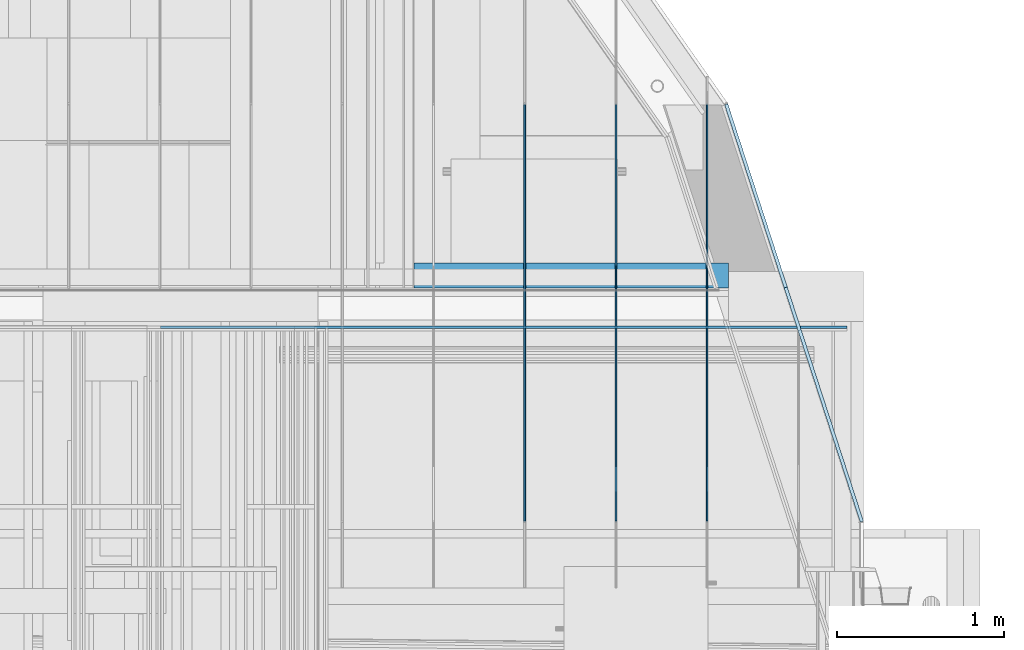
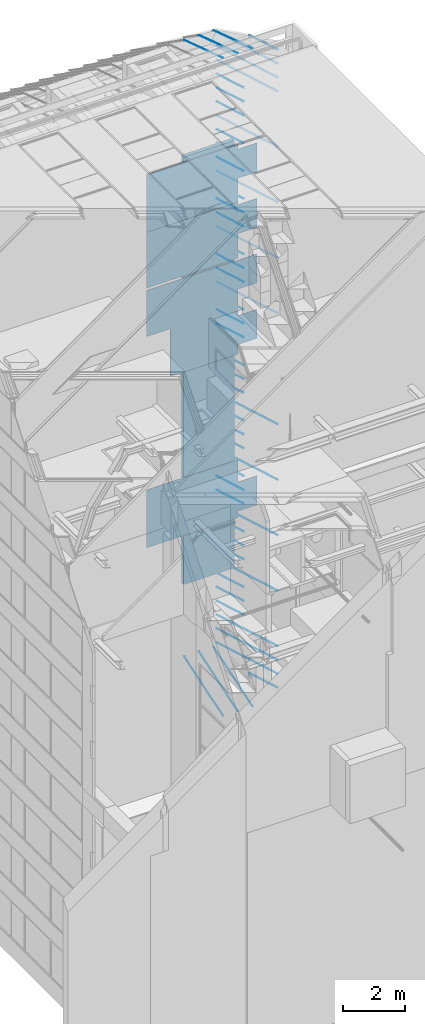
# One storey, part 286 of 583: 57 slabs.
"""IFC2X3 building model written with IfcOpenShell, lengths in metres."""

from ifc_helpers import new_model, entity, si_unit, converted_unit, derived_unit, money_unit, direction, frame, origin_with_axes, place, context, subcontext, project, spatial, faceted_brep, material, type_object, element, save


model = new_model("IFC2X3")

# Units and contexts
model_context = context("Model", 3, precision=1e-05, world=origin_with_axes(), true_north=direction((0.0, 1.0)))
body_context = subcontext(model_context, "Body", "Model", "MODEL_VIEW", scale=1.0)
ifc_project = project(units=[si_unit("LENGTHUNIT", "METRE"), si_unit("AREAUNIT", "SQUARE_METRE"), si_unit("VOLUMEUNIT", "CUBIC_METRE"), si_unit("ABSORBEDDOSEUNIT", "GRAY"), si_unit("AMOUNTOFSUBSTANCEUNIT", "MOLE"), si_unit("DOSEEQUIVALENTUNIT", "SIEVERT"), si_unit("ELECTRICCAPACITANCEUNIT", "FARAD"), si_unit("ELECTRICCHARGEUNIT", "COULOMB"), si_unit("ELECTRICCONDUCTANCEUNIT", "SIEMENS"), si_unit("ELECTRICCURRENTUNIT", "AMPERE"), si_unit("ELECTRICRESISTANCEUNIT", "OHM"), si_unit("ELECTRICVOLTAGEUNIT", "VOLT"), si_unit("ENERGYUNIT", "JOULE"), si_unit("FORCEUNIT", "NEWTON"), si_unit("FREQUENCYUNIT", "HERTZ"), si_unit("ILLUMINANCEUNIT", "LUX"), si_unit("INDUCTANCEUNIT", "HENRY"), si_unit("LUMINOUSFLUXUNIT", "LUMEN"), si_unit("LUMINOUSINTENSITYUNIT", "CANDELA"), si_unit("MAGNETICFLUXDENSITYUNIT", "TESLA"), si_unit("MAGNETICFLUXUNIT", "WEBER"), si_unit("MASSUNIT", "GRAM"), converted_unit("PLANEANGLEUNIT", "degree", entity("IfcReal", 0.0174532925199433), si_unit("PLANEANGLEUNIT", "RADIAN"), dimensions=[0, 0, 0, 0, 0, 0, 0]), si_unit("POWERUNIT", "WATT"), si_unit("PRESSUREUNIT", "PASCAL"), si_unit("RADIOACTIVITYUNIT", "BECQUEREL"), si_unit("SOLIDANGLEUNIT", "STERADIAN"), si_unit("THERMODYNAMICTEMPERATUREUNIT", "KELVIN"), si_unit("TIMEUNIT", "SECOND"), derived_unit("ACCELERATIONUNIT", [(si_unit("LENGTHUNIT", "METRE"), 1), (si_unit("TIMEUNIT", "SECOND"), -2)]), derived_unit("ANGULARVELOCITYUNIT", [(converted_unit("PLANEANGLEUNIT", "degree", entity("IfcReal", 0.0174532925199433), si_unit("PLANEANGLEUNIT", "RADIAN"), dimensions=[0, 0, 0, 0, 0, 0, 0]), 1), (si_unit("TIMEUNIT", "SECOND"), -1)]), derived_unit("CURVATUREUNIT", [(converted_unit("PLANEANGLEUNIT", "degree", entity("IfcReal", 0.0174532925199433), si_unit("PLANEANGLEUNIT", "RADIAN"), dimensions=[0, 0, 0, 0, 0, 0, 0]), 1), (si_unit("LENGTHUNIT", "METRE"), -1)]), derived_unit("DYNAMICVISCOSITYUNIT", [(si_unit("PRESSUREUNIT", "PASCAL"), 1), (si_unit("TIMEUNIT", "SECOND"), 1)]), derived_unit("HEATFLUXDENSITYUNIT", [(si_unit("POWERUNIT", "WATT"), 1), (si_unit("LENGTHUNIT", "METRE"), -2)]), derived_unit("HEATINGVALUEUNIT", [(si_unit("ENERGYUNIT", "JOULE"), 1), (si_unit("MASSUNIT", "GRAM"), -1)]), derived_unit("INTEGERCOUNTRATEUNIT", [(si_unit("TIMEUNIT", "SECOND"), -1)]), derived_unit("IONCONCENTRATIONUNIT", [(si_unit("MASSUNIT", "GRAM"), 1), (si_unit("VOLUMEUNIT", "CUBIC_METRE"), -1)]), derived_unit("ISOTHERMALMOISTURECAPACITYUNIT", [(si_unit("VOLUMEUNIT", "CUBIC_METRE"), 1), (si_unit("MASSUNIT", "GRAM"), -1)]), derived_unit("KINEMATICVISCOSITYUNIT", [(si_unit("AREAUNIT", "SQUARE_METRE"), 1), (si_unit("TIMEUNIT", "SECOND"), -1)]), derived_unit("LINEARFORCEUNIT", [(si_unit("FORCEUNIT", "NEWTON"), 1), (si_unit("LENGTHUNIT", "METRE"), -1)]), derived_unit("LINEARMOMENTUNIT", [(si_unit("FORCEUNIT", "NEWTON"), 1), (si_unit("LENGTHUNIT", "METRE"), -1)]), derived_unit("LINEARSTIFFNESSUNIT", [(si_unit("FORCEUNIT", "NEWTON"), 1), (si_unit("LENGTHUNIT", "METRE"), -1)]), derived_unit("LINEARVELOCITYUNIT", [(si_unit("LENGTHUNIT", "METRE"), 1), (si_unit("TIMEUNIT", "SECOND"), -1)]), derived_unit("LUMINOUSINTENSITYDISTRIBUTIONUNIT", [(si_unit("LUMINOUSINTENSITYUNIT", "CANDELA"), 1), (si_unit("LUMINOUSFLUXUNIT", "LUMEN"), -1)]), derived_unit("MASSDENSITYUNIT", [(si_unit("MASSUNIT", "GRAM"), 1), (si_unit("VOLUMEUNIT", "CUBIC_METRE"), -1)]), derived_unit("MASSFLOWRATEUNIT", [(si_unit("MASSUNIT", "GRAM"), 1), (si_unit("TIMEUNIT", "SECOND"), -1)]), derived_unit("MASSPERLENGTHUNIT", [(si_unit("MASSUNIT", "GRAM"), 1), (si_unit("LENGTHUNIT", "METRE"), -1)]), derived_unit("MODULUSOFELASTICITYUNIT", [(si_unit("FORCEUNIT", "NEWTON"), 1), (si_unit("AREAUNIT", "SQUARE_METRE"), -1)]), derived_unit("MODULUSOFLINEARSUBGRADEREACTIONUNIT", [(si_unit("FORCEUNIT", "NEWTON"), 1), (si_unit("LENGTHUNIT", "METRE"), -2)]), derived_unit("MODULUSOFROTATIONALSUBGRADEREACTIONUNIT", [(si_unit("FORCEUNIT", "NEWTON"), 1), (si_unit("LENGTHUNIT", "METRE"), 1)]), derived_unit("MODULUSOFSUBGRADEREACTIONUNIT", [(si_unit("FORCEUNIT", "NEWTON"), 1), (si_unit("VOLUMEUNIT", "CUBIC_METRE"), -1)]), derived_unit("MOISTUREDIFFUSIVITYUNIT", [(si_unit("VOLUMEUNIT", "CUBIC_METRE"), 1), (si_unit("TIMEUNIT", "SECOND"), -1)]), derived_unit("MOLECULARWEIGHTUNIT", [(si_unit("MASSUNIT", "GRAM"), 1), (si_unit("AMOUNTOFSUBSTANCEUNIT", "MOLE"), -1)]), derived_unit("PLANARFORCEUNIT", [(si_unit("FORCEUNIT", "NEWTON"), 1), (si_unit("LENGTHUNIT", "METRE"), -2)]), derived_unit("ROTATIONALFREQUENCYUNIT", [(si_unit("TIMEUNIT", "SECOND"), -1)]), derived_unit("ROTATIONALMASSUNIT", [(si_unit("MASSUNIT", "GRAM"), 1), (si_unit("LENGTHUNIT", "METRE"), 2)]), derived_unit("ROTATIONALSTIFFNESSUNIT", [(si_unit("FORCEUNIT", "NEWTON"), 1), (si_unit("LENGTHUNIT", "METRE"), 1), (converted_unit("PLANEANGLEUNIT", "degree", entity("IfcReal", 0.0174532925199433), si_unit("PLANEANGLEUNIT", "RADIAN"), dimensions=[0, 0, 0, 0, 0, 0, 0]), -1)]), derived_unit("SECTIONAREAINTEGRALUNIT", [(si_unit("LENGTHUNIT", "METRE"), 5)]), derived_unit("SECTIONMODULUSUNIT", [(si_unit("LENGTHUNIT", "METRE"), 3)]), derived_unit("SHEARMODULUSUNIT", [(si_unit("FORCEUNIT", "NEWTON"), 1), (si_unit("AREAUNIT", "SQUARE_METRE"), -1)]), derived_unit("SOUNDPOWERUNIT", [(si_unit("ENERGYUNIT", "JOULE"), 1), (si_unit("TIMEUNIT", "SECOND"), -1)]), derived_unit("SPECIFICHEATCAPACITYUNIT", [(si_unit("FORCEUNIT", "NEWTON"), 1), (si_unit("MASSUNIT", "GRAM"), -1), (si_unit("THERMODYNAMICTEMPERATUREUNIT", "KELVIN"), -1)]), derived_unit("TEMPERATUREGRADIENTUNIT", [(si_unit("THERMODYNAMICTEMPERATUREUNIT", "KELVIN"), 1), (si_unit("LENGTHUNIT", "METRE"), -1)]), derived_unit("THERMALADMITTANCEUNIT", [(si_unit("POWERUNIT", "WATT"), 1), (si_unit("AREAUNIT", "SQUARE_METRE"), -1), (si_unit("THERMODYNAMICTEMPERATUREUNIT", "KELVIN"), -1)]), derived_unit("THERMALCONDUCTANCEUNIT", [(si_unit("POWERUNIT", "WATT"), 1), (si_unit("LENGTHUNIT", "METRE"), -1), (si_unit("THERMODYNAMICTEMPERATUREUNIT", "KELVIN"), -1)]), derived_unit("THERMALEXPANSIONCOEFFICIENTUNIT", [(si_unit("THERMODYNAMICTEMPERATUREUNIT", "KELVIN"), -1)]), derived_unit("THERMALRESISTANCEUNIT", [(si_unit("AREAUNIT", "SQUARE_METRE"), 1), (si_unit("POWERUNIT", "WATT"), -1)]), derived_unit("THERMALTRANSMITTANCEUNIT", [(si_unit("POWERUNIT", "WATT"), 1), (si_unit("AREAUNIT", "SQUARE_METRE"), -1), (si_unit("THERMODYNAMICTEMPERATUREUNIT", "KELVIN"), -1)]), derived_unit("TORQUEUNIT", [(si_unit("FORCEUNIT", "NEWTON"), 1), (si_unit("LENGTHUNIT", "METRE"), 1)]), derived_unit("VAPORPERMEABILITYUNIT", [(si_unit("MASSUNIT", "GRAM"), 1), (si_unit("TIMEUNIT", "SECOND"), -1)]), derived_unit("VOLUMETRICFLOWRATEUNIT", [(si_unit("VOLUMEUNIT", "CUBIC_METRE"), 1), (si_unit("TIMEUNIT", "SECOND"), -1)]), derived_unit("WARPINGCONSTANTUNIT", [(si_unit("LENGTHUNIT", "METRE"), 6)]), derived_unit("WARPINGMOMENTUNIT", [(si_unit("FORCEUNIT", "NEWTON"), 1), (si_unit("LENGTHUNIT", "METRE"), 2)]), money_unit("GBP")], contexts=[model_context])

# Site, building, storey
site_placement = place(None, origin_with_axes())
site = spatial("IfcSite", under=ifc_project, at=site_placement, Name="Site", CompositionType="ELEMENT")
building_placement = place(site_placement, origin_with_axes())
building = spatial("IfcBuilding", under=site, at=building_placement, Name="Building01", CompositionType="ELEMENT")
storey_placement = place(building_placement, frame((0.0, 0.0, 20.78), z_axis=(0.0, 0.0, 1.0), x_axis=(1.0, 0.0, 0.0)))
storey = spatial("IfcBuildingStorey", under=building, at=storey_placement, Name="RL", CompositionType="ELEMENT", Elevation=20.78)

# Slabs
ifc_material_1 = material(Name="A_BSUK_CeilingSoffitFinishes_Suspended")
slab_type = type_object("IfcSlabType", Name="A-FloorsSlabs A_BSUK_Slabs", PredefinedType="FLOOR")
placement = place(storey_placement, frame((0.0, 0.0, -20.78), z_axis=(0.0, 0.0, 1.0), x_axis=(1.0, 0.0, 0.0)))
element("IfcSlab", 1, at=placement, inside=storey, type_object=slab_type, material=ifc_material_1, Name="A-FloorsSlabs A_BSUK_Slabs", ObjectType="CompoundSlabLeaf", context=body_context, shape_type="Brep", body=[
    faceted_brep([(10.179939, 17.438, 9.480024), (10.179939, 17.453, 9.480024), (10.179939, 17.453, 7.190024), (10.179939, 17.438, 7.190024), (13.587598, 17.438, 9.480024), (13.587598, 17.453, 9.480024), (13.587598, 17.438, 8.600024), (13.587598, 17.453, 8.600024), (14.300061, 17.438, 8.600024), (14.300061, 17.453, 8.600024), (14.300061, 17.438, 7.450024), (14.300061, 17.453, 7.450024), (13.587598, 17.438, 7.450024), (13.587598, 17.453, 7.450024), (13.587598, 17.438, 7.190024), (13.587598, 17.453, 7.190024)], [[[0, 1, 2, 3]], [[4, 5, 1, 0]], [[6, 7, 5, 4]], [[8, 9, 7, 6]], [[10, 11, 9, 8]], [[12, 13, 11, 10]], [[14, 15, 13, 12]], [[3, 2, 15, 14]], [[1, 5, 7, 9, 11, 13, 15, 2]], [[3, 14, 12, 10, 8, 6, 4, 0]]]),
])
element("IfcSlab", 2, at=placement, inside=storey, type_object=slab_type, material=ifc_material_1, Name="A-FloorsSlabs A_BSUK_Slabs", ObjectType="CompoundSlabLeaf", context=body_context, shape_type="Brep", body=[
    faceted_brep([(11.063789, 17.438, 13.65), (11.063789, 17.453, 13.65), (13.587598, 17.453, 13.65), (13.587598, 17.438, 13.65), (11.063789, 17.438, 15.529998), (11.063789, 17.453, 15.529998), (10.179939, 17.438, 15.529998), (10.179939, 17.453, 15.529998), (10.179939, 17.438, 17.360024), (10.179939, 17.453, 17.360024), (14.300061, 17.438, 17.360024), (14.300061, 17.453, 17.360024), (14.300061, 17.438, 16.210024), (14.300061, 17.453, 16.210024), (13.587598, 17.438, 16.210024), (13.587598, 17.453, 16.210024), (13.587598, 17.438, 15.169976), (13.587598, 17.453, 15.169976), (14.300061, 17.438, 15.169976), (14.300061, 17.453, 15.169976), (14.300061, 17.438, 14.020024), (14.300061, 17.453, 14.020024), (13.587598, 17.438, 14.020024), (13.587598, 17.453, 14.020024)], [[[0, 1, 2, 3]], [[4, 5, 1, 0]], [[6, 7, 5, 4]], [[8, 9, 7, 6]], [[10, 11, 9, 8]], [[12, 13, 11, 10]], [[14, 15, 13, 12]], [[16, 17, 15, 14]], [[18, 19, 17, 16]], [[20, 21, 19, 18]], [[22, 23, 21, 20]], [[3, 2, 23, 22]], [[1, 5, 7, 9, 11, 13, 15, 17, 19, 21, 23, 2]], [[3, 22, 20, 18, 16, 14, 12, 10, 8, 6, 4, 0]]]),
])
element("IfcSlab", 3, at=placement, inside=storey, type_object=slab_type, material=ifc_material_1, Name="A-FloorsSlabs A_BSUK_Slabs", ObjectType="CompoundSlabLeaf", context=body_context, shape_type="Brep", body=[
    faceted_brep([(10.179939, 17.438, 17.439976), (10.179939, 17.453, 17.439976), (13.587598, 17.453, 17.439976), (13.587598, 17.438, 17.439976), (10.179939, 17.438, 19.649976), (10.179939, 17.453, 19.649976), (13.587598, 17.438, 19.649976), (13.587598, 17.453, 19.649976), (13.587598, 17.438, 19.549976), (13.587598, 17.453, 19.549976), (14.300061, 17.438, 19.549976), (14.300061, 17.453, 19.549976), (14.300061, 17.438, 18.400024), (14.300061, 17.453, 18.400024), (13.587598, 17.438, 18.400024), (13.587598, 17.453, 18.400024)], [[[0, 1, 2, 3]], [[4, 5, 1, 0]], [[6, 7, 5, 4]], [[8, 9, 7, 6]], [[10, 11, 9, 8]], [[12, 13, 11, 10]], [[14, 15, 13, 12]], [[3, 2, 15, 14]], [[1, 5, 7, 9, 11, 13, 15, 2]], [[3, 14, 12, 10, 8, 6, 4, 0]]]),
])
element("IfcSlab", 4, at=placement, inside=storey, type_object=slab_type, material=ifc_material_1, Name="A-FloorsSlabs A_BSUK_Slabs", ObjectType="CompoundSlabLeaf", context=body_context, shape_type="Brep", body=[
    faceted_brep([(10.179939, 17.438, 19.649976), (10.179939, 17.453, 19.649976), (13.587598, 17.453, 19.649976), (13.587598, 17.438, 19.649976), (10.179939, 17.438, 21.939976), (10.179939, 17.453, 21.939976), (13.587598, 17.438, 21.939976), (13.587598, 17.453, 21.939976), (13.587598, 17.438, 21.739976), (13.587598, 17.453, 21.739976), (14.300061, 17.438, 21.739976), (14.300061, 17.453, 21.739976), (14.300061, 17.438, 20.590024), (14.300061, 17.453, 20.590024), (13.587598, 17.438, 20.590024), (13.587598, 17.453, 20.590024)], [[[0, 1, 2, 3]], [[4, 5, 1, 0]], [[6, 7, 5, 4]], [[8, 9, 7, 6]], [[10, 11, 9, 8]], [[12, 13, 11, 10]], [[14, 15, 13, 12]], [[3, 2, 15, 14]], [[1, 5, 7, 9, 11, 13, 15, 2]], [[3, 14, 12, 10, 8, 6, 4, 0]]]),
])
ifc_material_2 = material(Name="A_BSUK_Slabs")
element("IfcSlab", 5, at=placement, inside=storey, type_object=slab_type, material=ifc_material_2, Name="A-FloorsSlabs A_BSUK_Slabs", ObjectType="CompoundSlabLeaf", context=body_context, shape_type="Brep", body=[
    faceted_brep([(11.699939, 17.68, 5.060045), (11.699939, 17.83, 5.060045), (13.589879, 17.83, 5.060045), (13.589879, 17.68, 5.060045), (11.699939, 17.68, 21.939976), (11.699939, 17.83, 21.939976), (13.589879, 17.68, 21.939976), (13.589879, 17.83, 21.939976)], [[[0, 1, 2, 3]], [[4, 5, 1, 0]], [[6, 7, 5, 4]], [[3, 2, 7, 6]], [[1, 5, 7, 2]], [[3, 6, 4, 0]]]),
])
ifc_material_3 = material(Name="A_BSUK_Roofs")
slab_6_placement = place(storey_placement, frame((14.38, 16.274427, -9.464976), z_axis=(0.0, 1.0, 0.0), x_axis=(0.0, 0.0, -1.0)))
element("IfcSlab", 6, at=slab_6_placement, inside=storey, type_object=slab_type, material=ifc_material_3, Name="A-FloorsSlabs A_BSUK_Slabs", ObjectType="A-FloorsSlabs A_BSUK_Slabs", context=body_context, shape_type="Brep", body=[
    faceted_brep([(0.0, 0.0, 0.0), (0.0, -0.019021, 0.00618), (0.0, 0.795239, 2.512214), (0.0, 0.81426, 2.506034), (0.01, 0.0, 0.0), (0.01, -0.019021, 0.00618), (0.01, 0.81426, 2.506034), (0.01, 0.795239, 2.512214)], [[[0, 1, 2, 3]], [[4, 5, 1, 0]], [[6, 7, 5, 4]], [[3, 2, 7, 6]], [[1, 5, 7, 2]], [[3, 6, 4, 0]]]),
])
for number, where, z_axis, x_axis, name in (
    (7, (14.38, 16.274427, -10.012476), (0.0, 1.0, 0.0), (0.0, 0.0, -1.0), "A-FloorsSlabs A_BSUK_Slabs"),
    (8, (14.38, 16.274427, -10.559976), (0.0, 1.0, 0.0), (0.0, 0.0, -1.0), "A-FloorsSlabs A_BSUK_Slabs"),
    (9, (14.38, 16.274427, -11.107476), (0.0, 1.0, 0.0), (0.0, 0.0, -1.0), "A-FloorsSlabs A_BSUK_Slabs"),
):
    element("IfcSlab", number, at=place(storey_placement, frame(where, z_axis=z_axis, x_axis=x_axis)), inside=storey, type_object=slab_type, material=ifc_material_3, Name=name, ObjectType="A-FloorsSlabs A_BSUK_Slabs", context=body_context, shape_type="Brep", body=[
        faceted_brep([(0.0, 0.456727, 1.405662), (0.0, 0.437706, 1.411842), (0.0, 0.795239, 2.512214), (0.0, 0.81426, 2.506034), (0.01, 0.456727, 1.405662), (0.01, 0.437706, 1.411842), (0.01, 0.81426, 2.506034), (0.01, 0.795239, 2.512214)], [[[0, 1, 2, 3]], [[4, 5, 1, 0]], [[6, 7, 5, 4]], [[3, 2, 7, 6]], [[1, 5, 7, 2]], [[3, 6, 4, 0]]]),
    ])
slab_7_placement = place(storey_placement, frame((14.38, 16.274427, -11.654976), z_axis=(0.0, 1.0, 0.0), x_axis=(0.0, 0.0, -1.0)))
element("IfcSlab", 10, at=slab_7_placement, inside=storey, type_object=slab_type, material=ifc_material_3, Name="A-FloorsSlabs A_BSUK_Slabs", ObjectType="A-FloorsSlabs A_BSUK_Slabs", context=body_context, shape_type="Brep", body=[
    faceted_brep([(0.0, 0.0, 0.0), (0.0, -0.019021, 0.00618), (0.0, 0.795239, 2.512214), (0.0, 0.81426, 2.506034), (0.01, 0.0, 0.0), (0.01, -0.019021, 0.00618), (0.01, 0.81426, 2.506034), (0.01, 0.795239, 2.512214)], [[[0, 1, 2, 3]], [[4, 5, 1, 0]], [[6, 7, 5, 4]], [[3, 2, 7, 6]], [[1, 5, 7, 2]], [[3, 6, 4, 0]]]),
])
for number, where, z_axis, x_axis, name in (
    (11, (14.38, 16.274427, -12.202476), (0.0, 1.0, 0.0), (0.0, 0.0, -1.0), "A-FloorsSlabs A_BSUK_Slabs"),
    (12, (14.38, 16.274427, -12.749976), (0.0, 1.0, 0.0), (0.0, 0.0, -1.0), "A-FloorsSlabs A_BSUK_Slabs"),
    (13, (14.38, 16.274427, -13.297476), (0.0, 1.0, 0.0), (0.0, 0.0, -1.0), "A-FloorsSlabs A_BSUK_Slabs"),
):
    element("IfcSlab", number, at=place(storey_placement, frame(where, z_axis=z_axis, x_axis=x_axis)), inside=storey, type_object=slab_type, material=ifc_material_3, Name=name, ObjectType="A-FloorsSlabs A_BSUK_Slabs", context=body_context, shape_type="Brep", body=[
        faceted_brep([(0.0, 0.456727, 1.405662), (0.0, 0.437706, 1.411842), (0.0, 0.795239, 2.512214), (0.0, 0.81426, 2.506034), (0.01, 0.456727, 1.405662), (0.01, 0.437706, 1.411842), (0.01, 0.81426, 2.506034), (0.01, 0.795239, 2.512214)], [[[0, 1, 2, 3]], [[4, 5, 1, 0]], [[6, 7, 5, 4]], [[3, 2, 7, 6]], [[1, 5, 7, 2]], [[3, 6, 4, 0]]]),
    ])
slab_8_placement = place(storey_placement, frame((14.38, 16.274427, -13.844976), z_axis=(0.0, 1.0, 0.0), x_axis=(0.0, 0.0, -1.0)))
element("IfcSlab", 14, at=slab_8_placement, inside=storey, type_object=slab_type, material=ifc_material_3, Name="A-FloorsSlabs A_BSUK_Slabs", ObjectType="A-FloorsSlabs A_BSUK_Slabs", context=body_context, shape_type="Brep", body=[
    faceted_brep([(0.0, 0.0, 0.0), (0.0, -0.019021, 0.00618), (0.0, 0.795239, 2.512214), (0.0, 0.81426, 2.506034), (0.01, 0.0, 0.0), (0.01, -0.019021, 0.00618), (0.01, 0.81426, 2.506034), (0.01, 0.795239, 2.512214)], [[[0, 1, 2, 3]], [[4, 5, 1, 0]], [[6, 7, 5, 4]], [[3, 2, 7, 6]], [[1, 5, 7, 2]], [[3, 6, 4, 0]]]),
])
for number, where, z_axis, x_axis, name in (
    (15, (14.38, 16.274427, -14.392476), (0.0, 1.0, 0.0), (0.0, 0.0, -1.0), "A-FloorsSlabs A_BSUK_Slabs"),
    (16, (14.38, 16.274427, -14.939976), (0.0, 1.0, 0.0), (0.0, 0.0, -1.0), "A-FloorsSlabs A_BSUK_Slabs"),
    (17, (14.38, 16.274427, -15.487476), (0.0, 1.0, 0.0), (0.0, 0.0, -1.0), "A-FloorsSlabs A_BSUK_Slabs"),
):
    element("IfcSlab", number, at=place(storey_placement, frame(where, z_axis=z_axis, x_axis=x_axis)), inside=storey, type_object=slab_type, material=ifc_material_3, Name=name, ObjectType="A-FloorsSlabs A_BSUK_Slabs", context=body_context, shape_type="Brep", body=[
        faceted_brep([(0.0, 0.456727, 1.405662), (0.0, 0.437706, 1.411842), (0.0, 0.795239, 2.512214), (0.0, 0.81426, 2.506034), (0.01, 0.456727, 1.405662), (0.01, 0.437706, 1.411842), (0.01, 0.81426, 2.506034), (0.01, 0.795239, 2.512214)], [[[0, 1, 2, 3]], [[4, 5, 1, 0]], [[6, 7, 5, 4]], [[3, 2, 7, 6]], [[1, 5, 7, 2]], [[3, 6, 4, 0]]]),
    ])
slab_9_placement = place(storey_placement, frame((14.38, 16.274427, -16.034976), z_axis=(0.0, 1.0, 0.0), x_axis=(0.0, 0.0, -1.0)))
element("IfcSlab", 18, at=slab_9_placement, inside=storey, type_object=slab_type, material=ifc_material_3, Name="A-FloorsSlabs A_BSUK_Slabs", ObjectType="A-FloorsSlabs A_BSUK_Slabs", context=body_context, shape_type="Brep", body=[
    faceted_brep([(0.0, 0.0, 0.0), (0.0, -0.019021, 0.00618), (0.0, 0.795239, 2.512214), (0.0, 0.81426, 2.506034), (0.01, 0.0, 0.0), (0.01, -0.019021, 0.00618), (0.01, 0.81426, 2.506034), (0.01, 0.795239, 2.512214)], [[[0, 1, 2, 3]], [[4, 5, 1, 0]], [[6, 7, 5, 4]], [[3, 2, 7, 6]], [[1, 5, 7, 2]], [[3, 6, 4, 0]]]),
])
slab_10_placement = place(storey_placement, frame((14.38, 16.274427, -16.582476), z_axis=(0.0, 1.0, 0.0), x_axis=(0.0, 0.0, -1.0)))
element("IfcSlab", 19, at=slab_10_placement, inside=storey, type_object=slab_type, material=ifc_material_3, Name="A-FloorsSlabs A_BSUK_Slabs", ObjectType="A-FloorsSlabs A_BSUK_Slabs", context=body_context, shape_type="Brep", body=[
    faceted_brep([(0.0, 0.456727, 1.405662), (0.0, 0.437706, 1.411842), (0.0, 0.795239, 2.512214), (0.0, 0.81426, 2.506034), (0.01, 0.456727, 1.405662), (0.01, 0.437706, 1.411842), (0.01, 0.81426, 2.506034), (0.01, 0.795239, 2.512214)], [[[0, 1, 2, 3]], [[4, 5, 1, 0]], [[6, 7, 5, 4]], [[3, 2, 7, 6]], [[1, 5, 7, 2]], [[3, 6, 4, 0]]]),
])
for number, where, z_axis, x_axis, name in (
    (20, (14.38, 16.274427, -6.737476), (0.0, 1.0, 0.0), (0.0, 0.0, -1.0), "A-FloorsSlabs A_BSUK_Slabs"),
    (21, (14.38, 16.274427, -6.189976), (0.0, 1.0, 0.0), (0.0, 0.0, -1.0), "A-FloorsSlabs A_BSUK_Slabs"),
    (22, (14.38, 16.274427, -5.642476), (0.0, 1.0, 0.0), (0.0, 0.0, -1.0), "A-FloorsSlabs A_BSUK_Slabs"),
):
    element("IfcSlab", number, at=place(storey_placement, frame(where, z_axis=z_axis, x_axis=x_axis)), inside=storey, type_object=slab_type, material=ifc_material_3, Name=name, ObjectType="A-FloorsSlabs A_BSUK_Slabs", context=body_context, shape_type="Brep", body=[
        faceted_brep([(0.0, 0.81426, 2.506034), (0.0, 0.795239, 2.512214), (0.0, 0.437706, 1.411842), (0.0, 0.456727, 1.405662), (-0.01, 0.437706, 1.411842), (-0.01, 0.456727, 1.405662), (-0.01, 0.795239, 2.512214), (-0.01, 0.81426, 2.506034)], [[[0, 1, 2, 3]], [[3, 2, 4, 5]], [[5, 4, 6, 7]], [[7, 6, 1, 0]], [[1, 6, 4, 2]], [[3, 5, 7, 0]]]),
    ])
slab_11_placement = place(storey_placement, frame((14.38, 16.274427, -5.094976), z_axis=(0.0, 1.0, 0.0), x_axis=(0.0, 0.0, -1.0)))
element("IfcSlab", 23, at=slab_11_placement, inside=storey, type_object=slab_type, material=ifc_material_3, Name="A-FloorsSlabs A_BSUK_Slabs", ObjectType="A-FloorsSlabs A_BSUK_Slabs", context=body_context, shape_type="Brep", body=[
    faceted_brep([(0.0, 0.81426, 2.506034), (0.0, 0.795239, 2.512214), (0.0, -0.019021, 0.00618), (0.0, 0.0, 0.0), (-0.01, -0.019021, 0.00618), (-0.01, 0.0, 0.0), (-0.01, 0.795239, 2.512214), (-0.01, 0.81426, 2.506034)], [[[0, 1, 2, 3]], [[3, 2, 4, 5]], [[5, 4, 6, 7]], [[7, 6, 1, 0]], [[1, 6, 4, 2]], [[3, 5, 7, 0]]]),
])
for number, where, z_axis, x_axis, name in (
    (24, (14.38, 16.274427, -4.547476), (0.0, 1.0, 0.0), (0.0, 0.0, -1.0), "A-FloorsSlabs A_BSUK_Slabs"),
    (25, (14.38, 16.274427, -3.999976), (0.0, 1.0, 0.0), (0.0, 0.0, -1.0), "A-FloorsSlabs A_BSUK_Slabs"),
    (26, (14.38, 16.274427, -3.452476), (0.0, 1.0, 0.0), (0.0, 0.0, -1.0), "A-FloorsSlabs A_BSUK_Slabs"),
):
    element("IfcSlab", number, at=place(storey_placement, frame(where, z_axis=z_axis, x_axis=x_axis)), inside=storey, type_object=slab_type, material=ifc_material_3, Name=name, ObjectType="A-FloorsSlabs A_BSUK_Slabs", context=body_context, shape_type="Brep", body=[
        faceted_brep([(0.0, 0.81426, 2.506034), (0.0, 0.795239, 2.512214), (0.0, 0.437706, 1.411842), (0.0, 0.456727, 1.405662), (-0.01, 0.437706, 1.411842), (-0.01, 0.456727, 1.405662), (-0.01, 0.795239, 2.512214), (-0.01, 0.81426, 2.506034)], [[[0, 1, 2, 3]], [[3, 2, 4, 5]], [[5, 4, 6, 7]], [[7, 6, 1, 0]], [[1, 6, 4, 2]], [[3, 5, 7, 0]]]),
    ])
slab_12_placement = place(storey_placement, frame((14.38, 16.274427, -2.904976), z_axis=(0.0, 1.0, 0.0), x_axis=(0.0, 0.0, -1.0)))
element("IfcSlab", 27, at=slab_12_placement, inside=storey, type_object=slab_type, material=ifc_material_3, Name="A-FloorsSlabs A_BSUK_Slabs", ObjectType="A-FloorsSlabs A_BSUK_Slabs", context=body_context, shape_type="Brep", body=[
    faceted_brep([(0.0, 0.81426, 2.506034), (0.0, 0.795239, 2.512214), (0.0, -0.019021, 0.00618), (0.0, 0.0, 0.0), (-0.01, -0.019021, 0.00618), (-0.01, 0.0, 0.0), (-0.01, 0.795239, 2.512214), (-0.01, 0.81426, 2.506034)], [[[0, 1, 2, 3]], [[3, 2, 4, 5]], [[5, 4, 6, 7]], [[7, 6, 1, 0]], [[1, 6, 4, 2]], [[3, 5, 7, 0]]]),
])
for number, where, z_axis, x_axis, name in (
    (28, (14.38, 16.274427, -2.357476), (0.0, 1.0, 0.0), (0.0, 0.0, -1.0), "A-FloorsSlabs A_BSUK_Slabs"),
    (29, (14.38, 16.274427, -1.809976), (0.0, 1.0, 0.0), (0.0, 0.0, -1.0), "A-FloorsSlabs A_BSUK_Slabs"),
    (30, (14.38, 16.274427, -1.262476), (0.0, 1.0, 0.0), (0.0, 0.0, -1.0), "A-FloorsSlabs A_BSUK_Slabs"),
):
    element("IfcSlab", number, at=place(storey_placement, frame(where, z_axis=z_axis, x_axis=x_axis)), inside=storey, type_object=slab_type, material=ifc_material_3, Name=name, ObjectType="A-FloorsSlabs A_BSUK_Slabs", context=body_context, shape_type="Brep", body=[
        faceted_brep([(0.0, 0.81426, 2.506034), (0.0, 0.795239, 2.512214), (0.0, 0.437706, 1.411842), (0.0, 0.456727, 1.405662), (-0.01, 0.437706, 1.411842), (-0.01, 0.456727, 1.405662), (-0.01, 0.795239, 2.512214), (-0.01, 0.81426, 2.506034)], [[[0, 1, 2, 3]], [[3, 2, 4, 5]], [[5, 4, 6, 7]], [[7, 6, 1, 0]], [[1, 6, 4, 2]], [[3, 5, 7, 0]]]),
    ])
slab_13_placement = place(storey_placement, frame((14.38, 16.274427, -0.714976), z_axis=(0.0, 1.0, 0.0), x_axis=(0.0, 0.0, -1.0)))
element("IfcSlab", 31, at=slab_13_placement, inside=storey, type_object=slab_type, material=ifc_material_3, Name="A-FloorsSlabs A_BSUK_Slabs", ObjectType="A-FloorsSlabs A_BSUK_Slabs", context=body_context, shape_type="Brep", body=[
    faceted_brep([(0.0, 0.81426, 2.506034), (0.0, 0.795239, 2.512214), (0.0, -0.019021, 0.00618), (0.0, 0.0, 0.0), (-0.01, -0.019021, 0.00618), (-0.01, 0.0, 0.0), (-0.01, 0.795239, 2.512214), (-0.01, 0.81426, 2.506034)], [[[0, 1, 2, 3]], [[3, 2, 4, 5]], [[5, 4, 6, 7]], [[7, 6, 1, 0]], [[1, 6, 4, 2]], [[3, 5, 7, 0]]]),
])
for number, where, z_axis, x_axis, name in (
    (32, (14.38, 16.274427, -0.167476), (0.0, 1.0, 0.0), (0.0, 0.0, -1.0), "A-FloorsSlabs A_BSUK_Slabs"),
    (33, (14.38, 16.274427, 0.380024), (0.0, 1.0, 0.0), (0.0, 0.0, -1.0), "A-FloorsSlabs A_BSUK_Slabs"),
    (34, (14.38, 16.274427, 0.927524), (0.0, 1.0, 0.0), (0.0, 0.0, -1.0), "A-FloorsSlabs A_BSUK_Slabs"),
):
    element("IfcSlab", number, at=place(storey_placement, frame(where, z_axis=z_axis, x_axis=x_axis)), inside=storey, type_object=slab_type, material=ifc_material_3, Name=name, ObjectType="A-FloorsSlabs A_BSUK_Slabs", context=body_context, shape_type="Brep", body=[
        faceted_brep([(0.0, 0.81426, 2.506034), (0.0, 0.795239, 2.512214), (0.0, 0.437706, 1.411842), (0.0, 0.456727, 1.405662), (-0.01, 0.437706, 1.411842), (-0.01, 0.456727, 1.405662), (-0.01, 0.795239, 2.512214), (-0.01, 0.81426, 2.506034)], [[[0, 1, 2, 3]], [[3, 2, 4, 5]], [[5, 4, 6, 7]], [[7, 6, 1, 0]], [[1, 6, 4, 2]], [[3, 5, 7, 0]]]),
    ])
slab_14_placement = place(storey_placement, frame((14.38, 16.274427, 1.475024), z_axis=(0.0, 1.0, 0.0), x_axis=(0.0, 0.0, -1.0)))
element("IfcSlab", 35, at=slab_14_placement, inside=storey, type_object=slab_type, material=ifc_material_3, Name="A-FloorsSlabs A_BSUK_Slabs", ObjectType="A-FloorsSlabs A_BSUK_Slabs", context=body_context, shape_type="Brep", body=[
    faceted_brep([(0.0, 0.81426, 2.506034), (0.0, 0.795239, 2.512214), (0.0, -0.019021, 0.00618), (0.0, 0.0, 0.0), (-0.01, -0.019021, 0.00618), (-0.01, 0.0, 0.0), (-0.01, 0.795239, 2.512214), (-0.01, 0.81426, 2.506034)], [[[0, 1, 2, 3]], [[3, 2, 4, 5]], [[5, 4, 6, 7]], [[7, 6, 1, 0]], [[1, 6, 4, 2]], [[3, 5, 7, 0]]]),
])
for number, where, z_axis, x_axis, name in (
    (36, (14.38, 16.274427, 2.022524), (0.0, 1.0, 0.0), (0.0, 0.0, -1.0), "A-FloorsSlabs A_BSUK_Slabs"),
    (37, (14.38, 16.274427, 2.570024), (0.0, 1.0, 0.0), (0.0, 0.0, -1.0), "A-FloorsSlabs A_BSUK_Slabs"),
    (38, (14.38, 16.274427, 3.117524), (0.0, 1.0, 0.0), (0.0, 0.0, -1.0), "A-FloorsSlabs A_BSUK_Slabs"),
):
    element("IfcSlab", number, at=place(storey_placement, frame(where, z_axis=z_axis, x_axis=x_axis)), inside=storey, type_object=slab_type, material=ifc_material_3, Name=name, ObjectType="A-FloorsSlabs A_BSUK_Slabs", context=body_context, shape_type="Brep", body=[
        faceted_brep([(0.0, 0.81426, 2.506034), (0.0, 0.795239, 2.512214), (0.0, 0.437706, 1.411842), (0.0, 0.456727, 1.405662), (-0.01, 0.437706, 1.411842), (-0.01, 0.456727, 1.405662), (-0.01, 0.795239, 2.512214), (-0.01, 0.81426, 2.506034)], [[[0, 1, 2, 3]], [[3, 2, 4, 5]], [[5, 4, 6, 7]], [[7, 6, 1, 0]], [[1, 6, 4, 2]], [[3, 5, 7, 0]]]),
    ])
for number, where, z_axis, x_axis, name in (
    (39, (14.38, 16.274427, 3.665024), (0.0, 1.0, 0.0), (0.0, 0.0, -1.0), "A-FloorsSlabs A_BSUK_Slabs"),
    (40, (14.38, 16.274427, 4.212524), (0.0, 1.0, 0.0), (0.0, 0.0, -1.0), "A-FloorsSlabs A_BSUK_Slabs"),
    (41, (14.38, 16.274427, 4.760024), (0.0, 1.0, 0.0), (0.0, 0.0, -1.0), "A-FloorsSlabs A_BSUK_Slabs"),
):
    element("IfcSlab", number, at=place(storey_placement, frame(where, z_axis=z_axis, x_axis=x_axis)), inside=storey, type_object=slab_type, material=ifc_material_3, Name=name, ObjectType="A-FloorsSlabs A_BSUK_Slabs", context=body_context, shape_type="Brep", body=[
        faceted_brep([(0.0, 0.81426, 2.506034), (0.0, 0.795239, 2.512214), (0.0, -0.019021, 0.00618), (0.0, 0.0, 0.0), (-0.01, -0.019021, 0.00618), (-0.01, 0.0, 0.0), (-0.01, 0.795239, 2.512214), (-0.01, 0.81426, 2.506034)], [[[0, 1, 2, 3]], [[3, 2, 4, 5]], [[5, 4, 6, 7]], [[7, 6, 1, 0]], [[1, 6, 4, 2]], [[3, 5, 7, 0]]]),
    ])
slab_15_placement = place(storey_placement, frame((14.38, 16.274427, 5.307524), z_axis=(0.0, 1.0, 0.0), x_axis=(0.0, 0.0, -1.0)))
element("IfcSlab", 42, at=slab_15_placement, inside=storey, type_object=slab_type, material=ifc_material_3, Name="A-FloorsSlabs A_BSUK_Slabs", ObjectType="A-FloorsSlabs A_BSUK_Slabs", context=body_context, shape_type="Brep", body=[
    faceted_brep([(0.0, 0.373056, 1.148148), (0.0, 0.354035, 1.154329), (0.0, -0.019021, 0.00618), (0.0, 0.0, 0.0), (-0.01, -0.019021, 0.00618), (-0.01, 0.0, 0.0), (-0.01, 0.354035, 1.154329), (-0.01, 0.373056, 1.148148)], [[[0, 1, 2, 3]], [[3, 2, 4, 5]], [[5, 4, 6, 7]], [[7, 6, 1, 0]], [[1, 6, 4, 2]], [[3, 5, 7, 0]]]),
])
for number, where, z_axis, x_axis, name in (
    (43, (14.38, 16.274427, -7.822476), (0.0, 1.0, 0.0), (0.0, 0.0, -1.0), "A-FloorsSlabs A_BSUK_Slabs"),
    (44, (14.38, 16.274427, -8.369976), (0.0, 1.0, 0.0), (0.0, 0.0, -1.0), "A-FloorsSlabs A_BSUK_Slabs"),
    (45, (14.38, 16.274427, -8.917476), (0.0, 1.0, 0.0), (0.0, 0.0, -1.0), "A-FloorsSlabs A_BSUK_Slabs"),
    (46, (14.38, 16.274427, -17.129976), (0.0, 1.0, 0.0), (0.0, 0.0, -1.0), "A-FloorsSlabs A_BSUK_Slabs"),
    (47, (14.38, 16.274427, -17.677476), (0.0, 1.0, 0.0), (0.0, 0.0, -1.0), "A-FloorsSlabs A_BSUK_Slabs"),
):
    element("IfcSlab", number, at=place(storey_placement, frame(where, z_axis=z_axis, x_axis=x_axis)), inside=storey, type_object=slab_type, material=ifc_material_3, Name=name, ObjectType="A-FloorsSlabs A_BSUK_Slabs", context=body_context, shape_type="Brep", body=[
        faceted_brep([(0.0, 0.456727, 1.405662), (0.0, 0.437706, 1.411842), (0.0, 0.795239, 2.512214), (0.0, 0.81426, 2.506034), (0.01, 0.456727, 1.405662), (0.01, 0.437706, 1.411842), (0.01, 0.81426, 2.506034), (0.01, 0.795239, 2.512214)], [[[0, 1, 2, 3]], [[4, 5, 1, 0]], [[6, 7, 5, 4]], [[3, 2, 7, 6]], [[1, 5, 7, 2]], [[3, 6, 4, 0]]]),
    ])
for number, where, z_axis, x_axis, name in (
    (48, (14.38, 16.274427, -18.224976), (0.0, 1.0, 0.0), (0.0, 0.0, -1.0), "A-FloorsSlabs A_BSUK_Slabs"),
    (49, (14.38, 16.274427, -18.772476), (0.0, 1.0, 0.0), (0.0, 0.0, -1.0), "A-FloorsSlabs A_BSUK_Slabs"),
    (50, (14.38, 16.274427, -19.319976), (0.0, 1.0, 0.0), (0.0, 0.0, -1.0), "A-FloorsSlabs A_BSUK_Slabs"),
):
    element("IfcSlab", number, at=place(storey_placement, frame(where, z_axis=z_axis, x_axis=x_axis)), inside=storey, type_object=slab_type, material=ifc_material_3, Name=name, ObjectType="A-FloorsSlabs A_BSUK_Slabs", context=body_context, shape_type="Brep", body=[
        faceted_brep([(0.0, 0.0, 0.0), (0.0, -0.019021, 0.00618), (0.0, 0.795239, 2.512214), (0.0, 0.81426, 2.506034), (0.01, 0.0, 0.0), (0.01, -0.019021, 0.00618), (0.01, 0.81426, 2.506034), (0.01, 0.795239, 2.512214)], [[[0, 1, 2, 3]], [[4, 5, 1, 0]], [[6, 7, 5, 4]], [[3, 2, 7, 6]], [[1, 5, 7, 2]], [[3, 6, 4, 0]]]),
    ])
slab_16_placement = place(storey_placement, frame((14.38, 16.274427, -19.867476), z_axis=(0.0, 1.0, 0.0), x_axis=(0.0, 0.0, -1.0)))
element("IfcSlab", 51, at=slab_16_placement, inside=storey, type_object=slab_type, material=ifc_material_3, Name="A-FloorsSlabs A_BSUK_Slabs", ObjectType="A-FloorsSlabs A_BSUK_Slabs", context=body_context, shape_type="Brep", body=[
    faceted_brep([(0.0, 0.0, 0.0), (0.0, -0.019021, 0.00618), (0.0, 0.354035, 1.154329), (0.0, 0.373056, 1.148148), (0.01, 0.0, 0.0), (0.01, -0.019021, 0.00618), (0.01, 0.373056, 1.148148), (0.01, 0.354035, 1.154329)], [[[0, 1, 2, 3]], [[4, 5, 1, 0]], [[6, 7, 5, 4]], [[3, 2, 7, 6]], [[1, 5, 7, 2]], [[3, 6, 4, 0]]]),
])
for number, where, z_axis, x_axis, name in (
    (52, (12.360953, 16.274427, 5.68), (0.0, 1.0, 0.0), (1.0, 0.0, 0.0), "A-FloorsSlabs A_BSUK_Slabs"),
    (53, (12.908453, 16.274427, 5.68), (0.0, 1.0, 0.0), (1.0, 0.0, 0.0), "A-FloorsSlabs A_BSUK_Slabs"),
    (54, (13.455953, 16.274427, 5.68), (0.0, 1.0, 0.0), (1.0, 0.0, 0.0), "A-FloorsSlabs A_BSUK_Slabs"),
):
    element("IfcSlab", number, at=place(storey_placement, frame(where, z_axis=z_axis, x_axis=x_axis)), inside=storey, type_object=slab_type, material=ifc_material_3, Name=name, ObjectType="A-FloorsSlabs A_BSUK_Slabs", context=body_context, shape_type="Brep", body=[
        faceted_brep([(0.0, 0.0, 0.0), (0.0, -0.019021, 0.00618), (0.0, 0.795239, 2.512214), (0.0, 0.81426, 2.506034), (0.01, 0.0, 0.0), (0.01, -0.019021, 0.00618), (0.01, 0.81426, 2.506034), (0.01, 0.795239, 2.512214)], [[[0, 1, 2, 3]], [[4, 5, 1, 0]], [[6, 7, 5, 4]], [[3, 2, 7, 6]], [[1, 5, 7, 2]], [[3, 6, 4, 0]]]),
    ])
for number, where, z_axis, x_axis, name in (
    (55, (12.360953, 16.274427, -20.26), (0.0, 1.0, 0.0), (-1.0, 0.0, 0.0), "A-FloorsSlabs A_BSUK_Slabs"),
    (56, (12.908453, 16.274427, -20.26), (0.0, 1.0, 0.0), (-1.0, 0.0, 0.0), "A-FloorsSlabs A_BSUK_Slabs"),
    (57, (13.455953, 16.274427, -20.26), (0.0, 1.0, 0.0), (-1.0, 0.0, 0.0), "A-FloorsSlabs A_BSUK_Slabs"),
):
    element("IfcSlab", number, at=place(storey_placement, frame(where, z_axis=z_axis, x_axis=x_axis)), inside=storey, type_object=slab_type, material=ifc_material_3, Name=name, ObjectType="A-FloorsSlabs A_BSUK_Slabs", context=body_context, shape_type="Brep", body=[
        faceted_brep([(0.0, 0.81426, 2.506034), (0.0, 0.795239, 2.512214), (0.0, -0.019021, 0.00618), (0.0, 0.0, 0.0), (-0.01, -0.019021, 0.00618), (-0.01, 0.0, 0.0), (-0.01, 0.795239, 2.512214), (-0.01, 0.81426, 2.506034)], [[[0, 1, 2, 3]], [[3, 2, 4, 5]], [[5, 4, 6, 7]], [[7, 6, 1, 0]], [[1, 6, 4, 2]], [[3, 5, 7, 0]]]),
    ])

save(model, "model.ifc")
